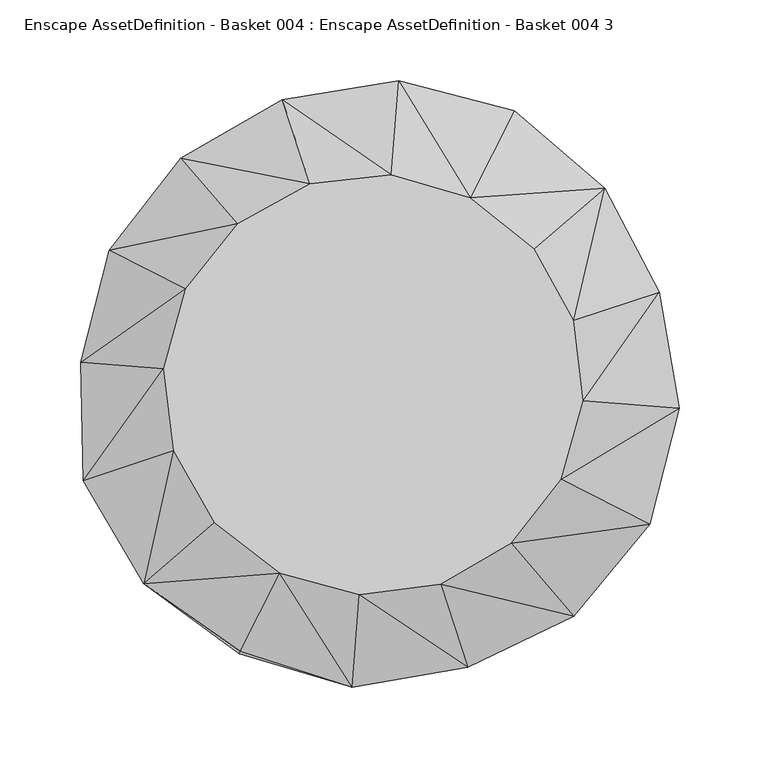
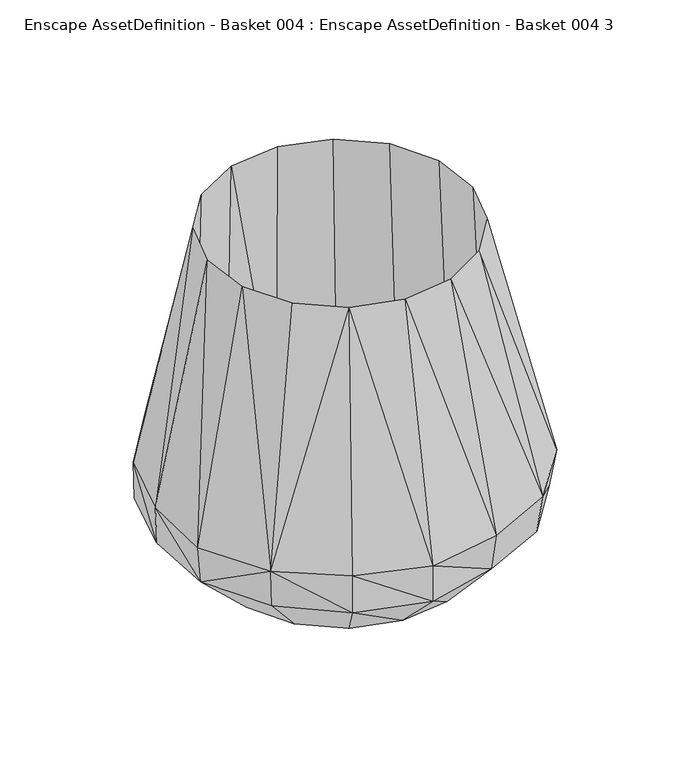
"""IFC4 building model written with IfcOpenShell, lengths in millimetres: geographic element geometry, Enscape AssetDefinition - Basket 004 : Enscape AssetDefinition - Basket 004 3."""

from ifc_helpers import new_model, si_unit, origin, place, context, project, spatial, triangles, source, transform, mapped, element, save


def enscape_assetdefinition_basket_004_enscape_assetdefinition_f91bcb0a(model_context):
    return source(origin(), model_context, "Body", "Tessellation", [
        triangles([(0.0, 0.0, 0.0), (125.3096841, -9.5868081, 0.0), (112.1027595, -56.8111717, 0.0), (81.8284537, -95.3865469, 0.0), (164.0561744, -83.140274, 59.3793834), (122.8343537, -143.1869722, 98.1788274), (119.2500976, -139.0079214, 59.3793834), (169.9576674, -86.1313615, 98.1788274), (84.195424, -98.1038683, 350.0000027), (57.2014503, -174.7502709, 98.1788274), (115.0726727, -58.3576434, 350.0000027), (47.3449526, -133.841349, 46.3370563), (-9.9257613, -129.8480608, 350.0000027), (40.3801388, -123.2555943, 350.0000027), (-6.6690492, -140.9226846, 46.3370563), (94.7925697, -106.6461249, 46.3370563), (188.0337806, -14.3859167, 98.1788274), (128.5940948, -9.8817631, 350.0000027), (128.1744802, -63.675769, 46.3370563), (142.7860974, -11.0762441, 46.3370563), (122.7292457, 40.1625876, 350.0000027), (175.7687407, 57.5347013, 98.1788274), (136.4511007, 42.6444355, 46.3370563), (142.083742, 121.8883904, 98.1788274), (184.5864075, -14.121926, 59.3793834), (173.2062336, 56.696285, 59.3793834), (138.4831987, 118.7995164, 59.3793834), (83.4189271, 164.606159, 59.3793834), (119.4399388, 39.0968414, 0.0), (95.3865469, 81.8284537, 0.0), (56.8111717, 112.1027595, 0.0), (9.5868081, 125.3096841, 0.0), (85.9814342, 169.6619187, 98.1788274), (-39.0968414, 119.4399388, 0.0), (14.1626655, 185.1192783, 59.3793834), (14.4013966, 188.2374746, 98.1788274), (-81.8284537, 95.3865469, 0.0), (-57.0865727, 174.3990932, 59.3793834), (-112.1027595, 56.8111717, 0.0), (-118.9950623, 138.7113188, 59.3793834), (-57.7506265, 176.4287477, 98.1788274), (9.9819818, 130.1324184, 350.0000027), (58.7120776, 115.9501991, 350.0000027), (-40.7329379, 124.5519269, 350.0000027), (-120.4144342, 140.3661597, 98.1788274), (-85.5789333, 99.8043368, 350.0000027), (-40.2831743, 133.7940772, 46.3370563), (-88.5203145, 107.1423246, 46.3370563), (-117.5667428, 59.4258331, 350.0000027), (-164.6069584, 83.4197356, 98.1788274), (-122.8115353, 64.0627957, 46.3370563), (-180.5393616, 13.8123064, 59.3793834), (-176.903755, -57.9062538, 59.3793834), (-182.3278062, 13.9491894, 98.1788274), (-131.3985929, 10.0691642, 350.0000027), (-125.105972, -40.8958958, 350.0000027), (-138.0432001, 10.0927933, 46.3370563), (-99.6372958, -85.4583375, 350.0000027), (-180.9002953, -59.2147995, 98.1788274), (-143.344221, -122.9696107, 98.1788274), (-141.4840602, -121.3734327, 59.3793834), (-84.3127497, -166.3693508, 59.3793834), (-103.5702861, -93.1540342, 46.3370563), (-131.1949081, -44.9698432, 46.3370563), (-83.5501055, -164.8644463, 98.1788274), (-14.3117718, -187.0625463, 98.1788274), (-59.1667283, -116.6272925, 350.0000027), (-59.8446348, -126.7200722, 46.3370563), (-56.8111717, -112.1027595, 0.0), (-9.5868081, -125.3096841, 0.0), (55.4097356, -169.2765135, 59.3793834), (-14.3085118, -187.0234317, 59.3793834), (14.5170985, 139.8878822, 46.3370563), (67.5109819, 124.4435578, 46.3370563), (110.1782312, 90.1947126, 46.3370563), (98.2399429, 84.3486033, 350.0000027), (39.0968414, -119.4399388, 0.0), (-119.4399388, -39.0968414, 0.0), (-95.3865469, -81.8284537, 0.0), (-125.3096841, 9.5868081, 0.0), (-163.6740211, 82.9471627, 59.3793834)], [[81, 80, 52], [81, 39, 80], [52, 78, 53], [52, 80, 78], [53, 79, 61], [53, 78, 79], [61, 79, 69], [39, 1, 80], [79, 1, 69], [78, 1, 79], [80, 1, 78], [69, 1, 70], [70, 1, 77], [77, 1, 4], [71, 77, 4], [23, 76, 75], [75, 43, 74], [75, 76, 43], [43, 76, 24], [75, 74, 73], [73, 23, 75], [43, 73, 74], [73, 68, 15], [68, 13, 15], [10, 13, 66], [66, 71, 10], [66, 72, 71], [72, 77, 71], [72, 70, 77], [62, 70, 72], [62, 69, 70], [61, 69, 62], [65, 72, 66], [65, 62, 72], [68, 67, 13], [67, 66, 13], [67, 65, 66], [73, 63, 68], [63, 67, 68], [73, 64, 63], [63, 58, 67], [64, 58, 63], [60, 62, 65], [60, 61, 62], [60, 53, 61], [67, 60, 65], [67, 58, 60], [60, 59, 53], [64, 56, 58], [60, 56, 59], [60, 58, 56], [73, 57, 64], [57, 56, 64], [73, 51, 57], [51, 55, 57], [57, 55, 56], [59, 56, 55], [59, 55, 54], [54, 53, 59], [54, 52, 53], [50, 52, 54], [50, 81, 52], [51, 49, 55], [54, 49, 50], [54, 55, 49], [73, 48, 51], [48, 49, 51], [73, 47, 48], [48, 46, 49], [50, 49, 46], [47, 46, 48], [50, 46, 45], [45, 81, 50], [45, 46, 44], [73, 44, 47], [47, 44, 46], [43, 42, 73], [73, 42, 44], [41, 44, 42], [45, 44, 41], [41, 40, 45], [45, 40, 81], [40, 39, 81], [40, 37, 39], [37, 1, 39], [34, 1, 37], [41, 38, 40], [38, 37, 40], [38, 34, 37], [36, 42, 43], [41, 42, 36], [36, 38, 41], [36, 43, 33], [43, 24, 33], [34, 38, 35], [35, 36, 33], [36, 35, 38], [34, 35, 32], [32, 1, 34], [35, 33, 28], [32, 35, 28], [24, 28, 33], [32, 31, 1], [32, 28, 31], [30, 1, 31], [29, 1, 30], [27, 31, 28], [27, 30, 31], [24, 27, 28], [26, 30, 27], [26, 29, 30], [25, 29, 26], [17, 25, 26], [22, 27, 24], [22, 26, 27], [17, 26, 22], [23, 21, 76], [24, 21, 22], [24, 76, 21], [73, 20, 23], [20, 21, 23], [20, 18, 21], [22, 18, 17], [22, 21, 18], [73, 19, 20], [19, 18, 20], [19, 11, 18], [17, 18, 11], [73, 16, 19], [16, 11, 19], [73, 12, 16], [73, 15, 12], [15, 14, 12], [15, 13, 14], [10, 14, 13], [12, 9, 16], [12, 14, 9], [16, 9, 11], [8, 11, 9], [17, 11, 8], [8, 25, 17], [6, 14, 10], [6, 9, 14], [8, 9, 6], [10, 7, 6], [10, 71, 7], [71, 4, 7], [6, 5, 8], [6, 7, 5], [8, 5, 25], [25, 2, 29], [5, 2, 25], [2, 1, 29], [5, 3, 2], [7, 3, 5], [7, 4, 3], [4, 1, 3], [3, 1, 2]]),
    ])


if __name__ == "__main__":
    model = new_model("IFC4")
    model_context = context("Model", 3, world=origin())
    ifc_project = project(units=[si_unit("LENGTHUNIT", "METRE", prefix="MILLI")], contexts=[model_context])
    site = spatial("IfcSite", under=ifc_project)
    building = spatial("IfcBuilding", under=site)
    placement = place(None, origin())
    enscape_assetdefinition_basket_004_enscape_assetdefinition_shape = enscape_assetdefinition_basket_004_enscape_assetdefinition_f91bcb0a(model_context)
    element("IfcGeographicElement", 1, ObjectType="Enscape AssetDefinition - Basket 004 : Enscape AssetDefinition - Basket 004 3", at=placement, inside=building, context=model_context, shape_type="MappedRepresentation", body=[
        mapped(enscape_assetdefinition_basket_004_enscape_assetdefinition_shape, transform((0.0, 0.0, 0.0), x_axis=(1.0, 0.0, 0.0), y_axis=(0.0, 1.0, 0.0), z_axis=(0.0, 0.0, 1.0))),
    ])
    save(model, "model.ifc")
